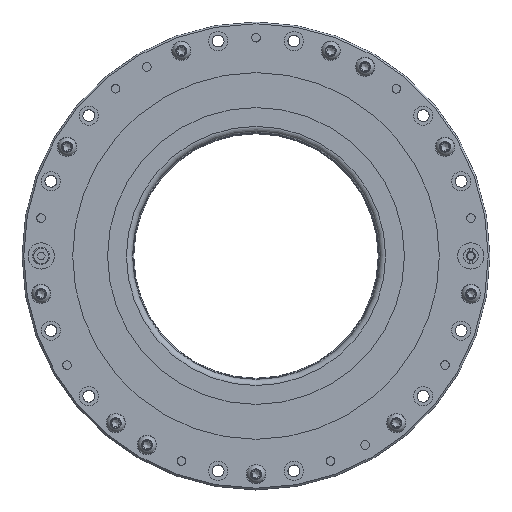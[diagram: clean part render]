
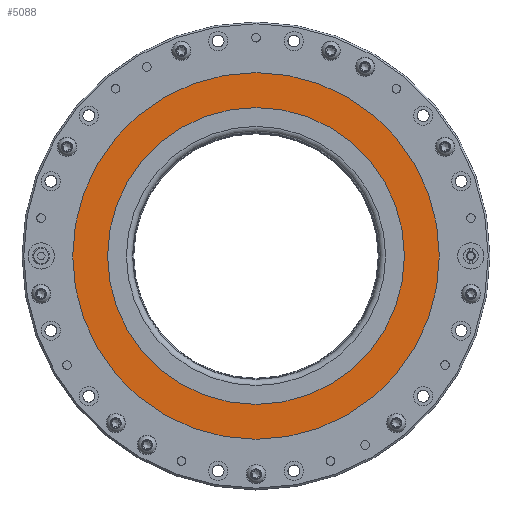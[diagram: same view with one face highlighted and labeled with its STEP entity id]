
A CAD part, top view. The second image highlights one B-rep face of the part: STEP entity #5088.
In plain terms, the highlighted planar face has unit normal (0, 0, 1) as drawn and (0, 0, -1) by its records, which use the part's own axes.
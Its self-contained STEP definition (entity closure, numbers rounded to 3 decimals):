
#332=PLANE('',#5463);
#487=CIRCLE('',#5464,85.);
#488=CIRCLE('',#5465,105.);
#978=ORIENTED_EDGE('',*,*,#1711,.T.);
#979=ORIENTED_EDGE('',*,*,#1712,.F.);
#1711=EDGE_CURVE('',#2134,#2134,#487,.T.);
#1712=EDGE_CURVE('',#2135,#2135,#488,.T.);
#2134=VERTEX_POINT('',#7816);
#2135=VERTEX_POINT('',#7818);
#2770=EDGE_LOOP('',(#978));
#2771=EDGE_LOOP('',(#979));
#3235=FACE_BOUND('',#2770,.T.);
#3236=FACE_BOUND('',#2771,.T.);
#5088=ADVANCED_FACE('',(#3235,#3236),#332,.F.);
#5463=AXIS2_PLACEMENT_3D('',#7814,#6203,#6204);
#5464=AXIS2_PLACEMENT_3D('',#7815,#6205,#6206);
#5465=AXIS2_PLACEMENT_3D('',#7817,#6207,#6208);
#6203=DIRECTION('',(0.,0.,1.));
#6204=DIRECTION('',(1.,0.,0.));
#6205=DIRECTION('',(0.,0.,1.));
#6206=DIRECTION('',(1.,0.,0.));
#6207=DIRECTION('',(0.,0.,1.));
#6208=DIRECTION('',(1.,0.,0.));
#7814=CARTESIAN_POINT('',(85.,0.,-9.5));
#7815=CARTESIAN_POINT('',(0.,0.,-9.5));
#7816=CARTESIAN_POINT('',(85.,0.,-9.5));
#7817=CARTESIAN_POINT('',(0.,0.,-9.5));
#7818=CARTESIAN_POINT('',(105.,0.,-9.5));
